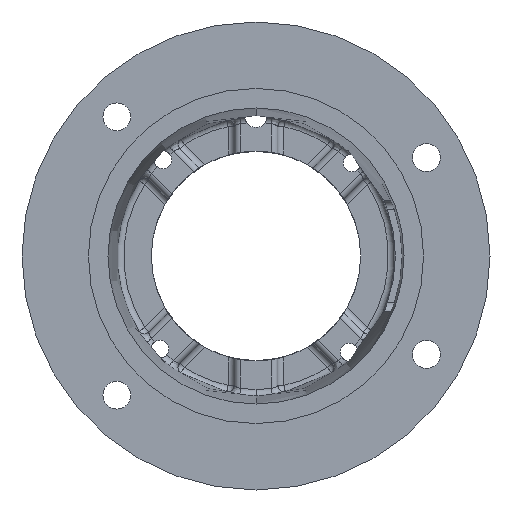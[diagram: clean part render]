
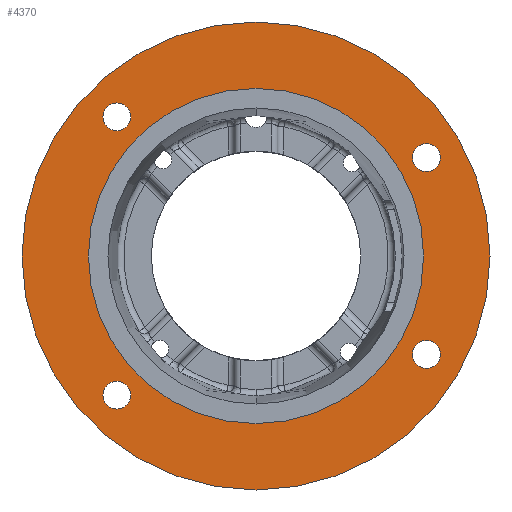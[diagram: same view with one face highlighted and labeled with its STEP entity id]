
A CAD part, front view. The second image highlights one B-rep face of the part: STEP entity #4370.
In plain terms, the highlighted planar face has unit normal (0, -1, 0).
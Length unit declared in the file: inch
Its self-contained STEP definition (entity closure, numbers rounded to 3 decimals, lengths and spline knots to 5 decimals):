
#36 = ORIENTED_EDGE ( 'NONE', *, *, #9604, .F. ) ;
#301 = ORIENTED_EDGE ( 'NONE', *, *, #6439, .F. ) ;
#426 = CIRCLE ( 'NONE', #5078, 3.9385 ) ;
#457 = VERTEX_POINT ( 'NONE', #8393 ) ;
#639 = EDGE_CURVE ( 'NONE', #2640, #13194, #13793, .T. ) ;
#853 = VERTEX_POINT ( 'NONE', #13247 ) ;
#1198 = FACE_BOUND ( 'NONE', #13846, .T. ) ;
#1296 = ORIENTED_EDGE ( 'NONE', *, *, #12857, .T. ) ;
#1341 = CIRCLE ( 'NONE', #9959, 0.32812 ) ;
#1356 = CIRCLE ( 'NONE', #13844, 0.32812 ) ;
#1571 = VERTEX_POINT ( 'NONE', #7489 ) ;
#1612 = EDGE_CURVE ( 'NONE', #6459, #457, #2361, .T. ) ;
#1713 = CARTESIAN_POINT ( 'NONE',  ( 0., 0., 0. ) ) ;
#1893 = CARTESIAN_POINT ( 'NONE',  ( -3.27037, 0., -2.94224 ) ) ;
#1917 = DIRECTION ( 'NONE',  ( 0., 0., 1. ) ) ;
#1938 = CARTESIAN_POINT ( 'NONE',  ( 4.00537, 0., 2.3125 ) ) ;
#2029 = DIRECTION ( 'NONE',  ( 0., 1., 0. ) ) ;
#2103 = ORIENTED_EDGE ( 'NONE', *, *, #639, .F. ) ;
#2239 = PLANE ( 'NONE',  #12679 ) ;
#2334 = CARTESIAN_POINT ( 'NONE',  ( -5.5, 0., 0. ) ) ;
#2349 = DIRECTION ( 'NONE',  ( 0., -1., 0. ) ) ;
#2361 = CIRCLE ( 'NONE', #12472, 3.9385 ) ;
#2547 = CARTESIAN_POINT ( 'NONE',  ( 0., 0., 5.5 ) ) ;
#2640 = VERTEX_POINT ( 'NONE', #4764 ) ;
#2645 = EDGE_CURVE ( 'NONE', #5111, #12482, #1341, .T. ) ;
#2794 = DIRECTION ( 'NONE',  ( 0., 0., -1. ) ) ;
#2881 = CARTESIAN_POINT ( 'NONE',  ( 0., 0., 3.9385 ) ) ;
#2893 = AXIS2_PLACEMENT_3D ( 'NONE', #4014, #11514, #5123 ) ;
#3005 = CIRCLE ( 'NONE', #12875, 0.32812 ) ;
#3017 = DIRECTION ( 'NONE',  ( 0., 0., -1. ) ) ;
#3020 = EDGE_CURVE ( 'NONE', #6287, #6127, #7213, .T. ) ;
#3299 = DIRECTION ( 'NONE',  ( 0., -1., 0. ) ) ;
#3340 = AXIS2_PLACEMENT_3D ( 'NONE', #7511, #7472, #7422 ) ;
#3346 = CARTESIAN_POINT ( 'NONE',  ( -3.27037, 0., 3.27037 ) ) ;
#3450 = CIRCLE ( 'NONE', #12660, 0.32812 ) ;
#3505 = CARTESIAN_POINT ( 'NONE',  ( 0., 0., 0. ) ) ;
#3556 = DIRECTION ( 'NONE',  ( 0., -1., 0. ) ) ;
#3568 = DIRECTION ( 'NONE',  ( 0., 0., -1. ) ) ;
#3690 = DIRECTION ( 'NONE',  ( 0., 0., -1. ) ) ;
#4014 = CARTESIAN_POINT ( 'NONE',  ( 0., 0., 0. ) ) ;
#4043 = FACE_BOUND ( 'NONE', #4284, .T. ) ;
#4158 = CIRCLE ( 'NONE', #9072, 0.32812 ) ;
#4176 = DIRECTION ( 'NONE',  ( 0., -1., 0. ) ) ;
#4178 = EDGE_CURVE ( 'NONE', #1571, #7623, #10743, .T. ) ;
#4236 = AXIS2_PLACEMENT_3D ( 'NONE', #8790, #2349, #9841 ) ;
#4271 = EDGE_LOOP ( 'NONE', ( #1296, #4744 ) ) ;
#4284 = EDGE_LOOP ( 'NONE', ( #5964, #2103 ) ) ;
#4370 = ADVANCED_FACE ( 'NONE', ( #6924, #4043, #12594, #1198, #12264, #9437 ), #2239, .F. ) ;
#4404 = DIRECTION ( 'NONE',  ( 0., 0., -1. ) ) ;
#4474 = DIRECTION ( 'NONE',  ( 0., -1., 0. ) ) ;
#4515 = CARTESIAN_POINT ( 'NONE',  ( -3.27037, 0., 3.27037 ) ) ;
#4744 = ORIENTED_EDGE ( 'NONE', *, *, #3020, .T. ) ;
#4764 = CARTESIAN_POINT ( 'NONE',  ( 4.00537, 0., -1.98438 ) ) ;
#4862 = EDGE_CURVE ( 'NONE', #13483, #853, #9277, .T. ) ;
#5078 = AXIS2_PLACEMENT_3D ( 'NONE', #1713, #9229, #2794 ) ;
#5111 = VERTEX_POINT ( 'NONE', #6170 ) ;
#5123 = DIRECTION ( 'NONE',  ( 0., 0., -1. ) ) ;
#5297 = CARTESIAN_POINT ( 'NONE',  ( 4.00537, 0., -2.64063 ) ) ;
#5806 = DIRECTION ( 'NONE',  ( 0., 0., -1. ) ) ;
#5838 = DIRECTION ( 'NONE',  ( 0., -1., 0. ) ) ;
#5905 = CARTESIAN_POINT ( 'NONE',  ( 0., 0., 0. ) ) ;
#5964 = ORIENTED_EDGE ( 'NONE', *, *, #13611, .F. ) ;
#6127 = VERTEX_POINT ( 'NONE', #6335 ) ;
#6170 = CARTESIAN_POINT ( 'NONE',  ( -3.27037, 0., 2.94224 ) ) ;
#6287 = VERTEX_POINT ( 'NONE', #2547 ) ;
#6335 = CARTESIAN_POINT ( 'NONE',  ( 0., 0., -5.5 ) ) ;
#6439 = EDGE_CURVE ( 'NONE', #457, #6459, #426, .T. ) ;
#6459 = VERTEX_POINT ( 'NONE', #2881 ) ;
#6526 = CARTESIAN_POINT ( 'NONE',  ( 4.00537, 0., -2.3125 ) ) ;
#6579 = AXIS2_PLACEMENT_3D ( 'NONE', #5905, #5838, #5806 ) ;
#6850 = DIRECTION ( 'NONE',  ( 0., 0., -1. ) ) ;
#6865 = DIRECTION ( 'NONE',  ( 0., -1., 0. ) ) ;
#6924 = FACE_BOUND ( 'NONE', #11104, .T. ) ;
#7213 = CIRCLE ( 'NONE', #6579, 5.5 ) ;
#7422 = DIRECTION ( 'NONE',  ( 0., 0., -1. ) ) ;
#7472 = DIRECTION ( 'NONE',  ( 0., -1., 0. ) ) ;
#7489 = CARTESIAN_POINT ( 'NONE',  ( -3.27037, 0., -3.59849 ) ) ;
#7511 = CARTESIAN_POINT ( 'NONE',  ( -3.27037, 0., -3.27037 ) ) ;
#7543 = AXIS2_PLACEMENT_3D ( 'NONE', #6526, #6865, #6850 ) ;
#7623 = VERTEX_POINT ( 'NONE', #1893 ) ;
#7650 = EDGE_LOOP ( 'NONE', ( #301, #10138 ) ) ;
#7821 = ORIENTED_EDGE ( 'NONE', *, *, #4862, .F. ) ;
#8393 = CARTESIAN_POINT ( 'NONE',  ( 0., 0., -3.9385 ) ) ;
#8689 = ORIENTED_EDGE ( 'NONE', *, *, #13255, .F. ) ;
#8790 = CARTESIAN_POINT ( 'NONE',  ( 4.00537, 0., 2.3125 ) ) ;
#9072 = AXIS2_PLACEMENT_3D ( 'NONE', #1938, #9435, #3017 ) ;
#9229 = DIRECTION ( 'NONE',  ( 0., -1., 0. ) ) ;
#9277 = CIRCLE ( 'NONE', #4236, 0.32812 ) ;
#9353 = CIRCLE ( 'NONE', #2893, 5.5 ) ;
#9435 = DIRECTION ( 'NONE',  ( 0., -1., 0. ) ) ;
#9437 = FACE_OUTER_BOUND ( 'NONE', #4271, .T. ) ;
#9604 = EDGE_CURVE ( 'NONE', #7623, #1571, #3005, .T. ) ;
#9700 = CARTESIAN_POINT ( 'NONE',  ( -3.27037, 0., -3.27037 ) ) ;
#9820 = EDGE_CURVE ( 'NONE', #853, #13483, #4158, .T. ) ;
#9841 = DIRECTION ( 'NONE',  ( 0., 0., -1. ) ) ;
#9884 = ORIENTED_EDGE ( 'NONE', *, *, #2645, .F. ) ;
#9959 = AXIS2_PLACEMENT_3D ( 'NONE', #4515, #4474, #3690 ) ;
#10138 = ORIENTED_EDGE ( 'NONE', *, *, #1612, .F. ) ;
#10292 = ORIENTED_EDGE ( 'NONE', *, *, #9820, .F. ) ;
#10590 = CARTESIAN_POINT ( 'NONE',  ( 4.00537, 0., -2.3125 ) ) ;
#10743 = CIRCLE ( 'NONE', #3340, 0.32812 ) ;
#10766 = DIRECTION ( 'NONE',  ( 0., 0., -1. ) ) ;
#10817 = ORIENTED_EDGE ( 'NONE', *, *, #4178, .F. ) ;
#10823 = DIRECTION ( 'NONE',  ( 0., -1., 0. ) ) ;
#11104 = EDGE_LOOP ( 'NONE', ( #10292, #7821 ) ) ;
#11514 = DIRECTION ( 'NONE',  ( 0., -1., 0. ) ) ;
#11669 = DIRECTION ( 'NONE',  ( 0., 0., -1. ) ) ;
#11859 = CARTESIAN_POINT ( 'NONE',  ( -3.27037, 0., 3.59849 ) ) ;
#12264 = FACE_BOUND ( 'NONE', #7650, .T. ) ;
#12472 = AXIS2_PLACEMENT_3D ( 'NONE', #3505, #3556, #3568 ) ;
#12482 = VERTEX_POINT ( 'NONE', #11859 ) ;
#12594 = FACE_BOUND ( 'NONE', #13668, .T. ) ;
#12660 = AXIS2_PLACEMENT_3D ( 'NONE', #3346, #10823, #4404 ) ;
#12679 = AXIS2_PLACEMENT_3D ( 'NONE', #2334, #2029, #1917 ) ;
#12857 = EDGE_CURVE ( 'NONE', #6127, #6287, #9353, .T. ) ;
#12875 = AXIS2_PLACEMENT_3D ( 'NONE', #9700, #3299, #10766 ) ;
#13194 = VERTEX_POINT ( 'NONE', #5297 ) ;
#13247 = CARTESIAN_POINT ( 'NONE',  ( 4.00537, 0., 1.98437 ) ) ;
#13255 = EDGE_CURVE ( 'NONE', #12482, #5111, #3450, .T. ) ;
#13313 = CARTESIAN_POINT ( 'NONE',  ( 4.00537, 0., 2.64062 ) ) ;
#13483 = VERTEX_POINT ( 'NONE', #13313 ) ;
#13611 = EDGE_CURVE ( 'NONE', #13194, #2640, #1356, .T. ) ;
#13668 = EDGE_LOOP ( 'NONE', ( #10817, #36 ) ) ;
#13793 = CIRCLE ( 'NONE', #7543, 0.32812 ) ;
#13844 = AXIS2_PLACEMENT_3D ( 'NONE', #10590, #4176, #11669 ) ;
#13846 = EDGE_LOOP ( 'NONE', ( #9884, #8689 ) ) ;
